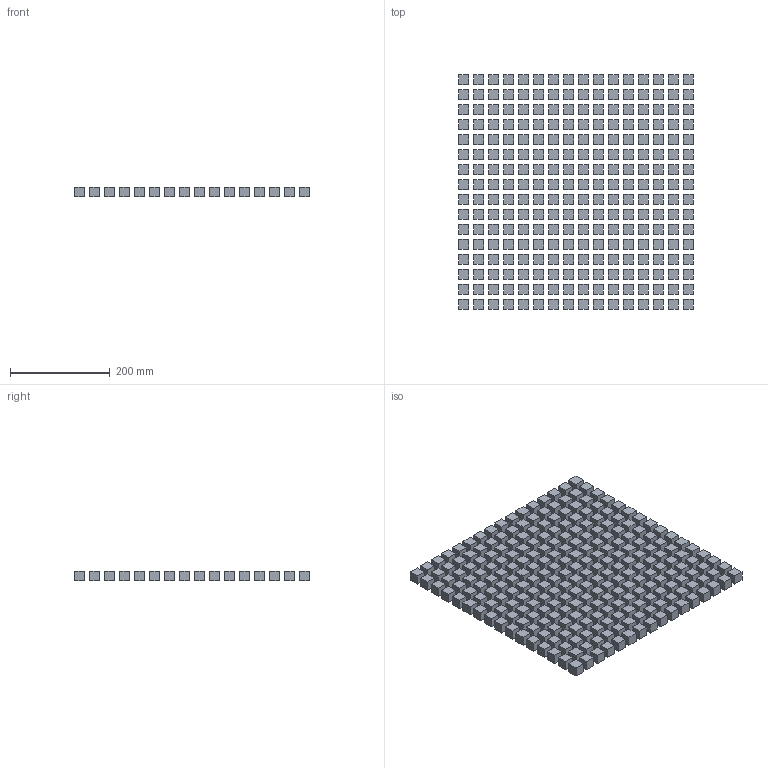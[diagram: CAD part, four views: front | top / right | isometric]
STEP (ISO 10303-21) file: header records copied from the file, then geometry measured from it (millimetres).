
FILE_DESCRIPTION(('CoreLinks own small fixture'),'2;1');
FILE_NAME('cube-mm.step','2026-10-05T00:00:00',('CoreLinks'),('CoreLinks'),'CoreLinks fixture generator','CoreLinks','');
FILE_SCHEMA(('AUTOMOTIVE_DESIGN'));
Length unit declared in the file: millimetre
Products named in the file (1): CoreLinks cube
Bounding box: 470 x 470 x 20 mm (x, y, z)
Volume: 2048000 mm3; surface area: 614400 mm2
Topology: 256 solids, 256 shells, 1536 faces, 3072 edges, 2048 vertices
Faces by surface type: plane 1536
Entity records: 13323 total; most frequent: DIRECTION 3072, CARTESIAN_POINT 2048, POLY_LOOP 1536, FACE_OUTER_BOUND 1536, AXIS2_PLACEMENT_3D 1536, PLANE 1536, FACE_SURFACE 1536, CLOSED_SHELL 256
